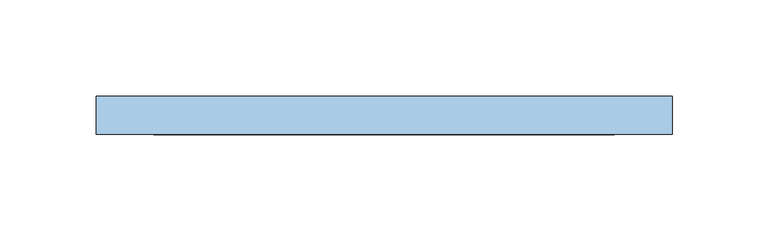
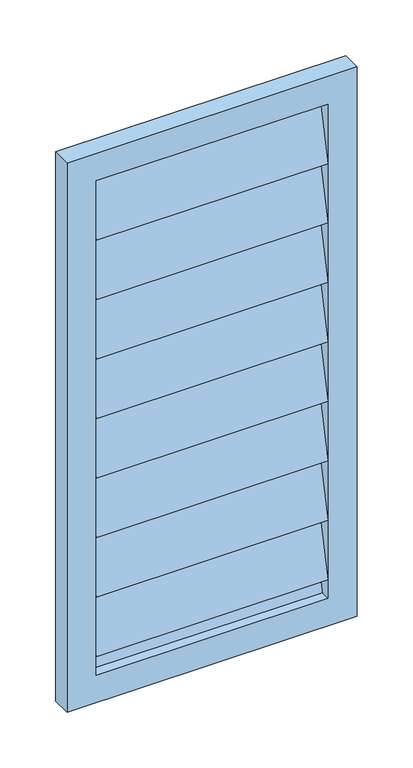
"""IFC4 building model written with IfcOpenShell, lengths in millimetres: window geometry, ARQ-Rejilla ventilación : ARQ-Rejilla ventilación."""

import ifcopenshell
import ifcopenshell.guid

model = None  # the IFC model being written
_history = None  # IfcOwnerHistory: only IFC2X3 demands one
_inside = {}  # id of a spatial element -> (the spatial element, [elements in it])
_under = {}  # id of a project, library or spatial element -> (it, [spatial elements below it])
_declared = {}  # id of a project -> (the project, [libraries it declares])
_typed = {}  # id of a type object -> (the type object, [elements of that type])
_made_of = {}  # id of a material, layer set ... -> (it, [elements and type objects made of it])


def new_model(schema):
    """Start an empty IFC model of exactly this schema.

    Asked for "IFC4X3", IfcOpenShell would pick the latest addendum, in which some entities
    have other attributes; the version numbers below select the first issue.
    IFC2X3 requires an IfcOwnerHistory on every rooted entity: one is made here for all.
    """
    global model, _history
    if schema == "IFC4X3":
        model = ifcopenshell.file(schema_version=(4, 3, 0, 0))
    else:
        model = ifcopenshell.file(schema=schema)
    _inside.clear()
    _under.clear()
    _declared.clear()
    _typed.clear()
    _made_of.clear()
    _history = None
    if model.schema == "IFC2X3":
        org = make("IfcOrganization", Name="unknown")
        user = make(
            "IfcPersonAndOrganization",
            ThePerson=make("IfcPerson", FamilyName="unknown"),
            TheOrganization=org,
        )
        app = make(
            "IfcApplication",
            ApplicationDeveloper=org,
            Version="unknown",
            ApplicationFullName="unknown",
            ApplicationIdentifier="unknown",
        )
        _history = make(
            "IfcOwnerHistory",
            OwningUser=user,
            OwningApplication=app,
            ChangeAction="ADDED",
            CreationDate=0,
        )
    return model


def make(cls, **values):
    """One entity of the class cls with the attributes given. An attribute that is None is left unset."""
    return model.create_entity(
        cls, **{name: value for name, value in values.items() if value is not None}
    )


def rooted(cls, **values):
    """An entity with a GlobalId (a new one), such as an element, a storey or a relation."""
    return make(cls, GlobalId=ifcopenshell.guid.new(), OwnerHistory=_history, **values)


def si_unit(unit_type, name, prefix=None):
    """IfcSIUnit, for example si_unit("LENGTHUNIT", "METRE", prefix="MILLI")."""
    return make("IfcSIUnit", UnitType=unit_type, Prefix=prefix, Name=name)


def assignment(units):
    """IfcUnitAssignment: the units of a project."""
    return None if units is None else make("IfcUnitAssignment", Units=units)


def point(xyz):
    """IfcCartesianPoint."""
    return None if xyz is None else make("IfcCartesianPoint", Coordinates=xyz)


def direction(xyz):
    """IfcDirection."""
    return None if xyz is None else make("IfcDirection", DirectionRatios=xyz)


def frame(location, z_axis=None, x_axis=None):
    """IfcAxis2Placement3D, a coordinate frame: its origin and axes. An axis left out is left unset."""
    return make(
        "IfcAxis2Placement3D",
        Location=point(location),
        Axis=direction(z_axis),
        RefDirection=direction(x_axis),
    )


def origin():
    """The frame at (0, 0, 0) with its axes left unset."""
    return frame((0.0, 0.0, 0.0))


def place(relative_to, where):
    """IfcLocalPlacement: puts the frame where relative to a parent placement (None: the world)."""
    return make(
        "IfcLocalPlacement", PlacementRelTo=relative_to, RelativePlacement=where
    )


def context(
    kind, dimensions, precision=None, world=None, true_north=None, identifier=None
):
    """IfcGeometricRepresentationContext, for example the 3D "Model" context."""
    return make(
        "IfcGeometricRepresentationContext",
        ContextIdentifier=identifier,
        ContextType=kind,
        CoordinateSpaceDimension=dimensions,
        Precision=precision,
        WorldCoordinateSystem=world,
        TrueNorth=true_north,
    )


def project(units=None, contexts=None):
    """IfcProject with its units and contexts."""
    return rooted(
        "IfcProject",
        Name="project",
        RepresentationContexts=contexts,
        UnitsInContext=assignment(units),
    )


def spatial(cls, under=None, at=None, **own):
    """A site, building, storey or space (cls), placed at a placement, below another one or the project."""
    s = rooted(cls, ObjectPlacement=at, **own)
    if under is not None:
        _under.setdefault(under.id(), (under, []))[1].append(s)
    return s


def polyline(points):
    """IfcPolyline through the points."""
    return make("IfcPolyline", Points=[point(p) for p in points])


def outline(outer, holes=None, kind="AREA"):
    """IfcArbitraryClosedProfileDef: a profile drawn as a closed curve; with holes, ...WithVoids."""
    if holes is None:
        return make("IfcArbitraryClosedProfileDef", ProfileType=kind, OuterCurve=outer)
    return make(
        "IfcArbitraryProfileDefWithVoids",
        ProfileType=kind,
        OuterCurve=outer,
        InnerCurves=holes,
    )


def extrude(swept, where, along, depth):
    """IfcExtrudedAreaSolid: the profile swept, set in the frame where, extruded along a direction by depth."""
    return make(
        "IfcExtrudedAreaSolid",
        SweptArea=swept,
        Position=where,
        ExtrudedDirection=direction(along),
        Depth=depth,
    )


def shape(context_of_items, identifier, shape_type, items):
    """IfcShapeRepresentation: the items that make up one representation, for example the "Body"."""
    return make(
        "IfcShapeRepresentation",
        ContextOfItems=context_of_items,
        RepresentationIdentifier=identifier,
        RepresentationType=shape_type,
        Items=items,
    )


def source(mapping_origin, context_of_items, identifier, shape_type, items):
    """IfcRepresentationMap: a shape defined once, which mapped items show again and again."""
    return make(
        "IfcRepresentationMap",
        MappingOrigin=mapping_origin,
        MappedRepresentation=shape(context_of_items, identifier, shape_type, items),
    )


def transform(
    local_origin,
    x_axis=None,
    y_axis=None,
    z_axis=None,
    scale=None,
    scale2=None,
    scale3=None,
    uniform=True,
):
    """IfcCartesianTransformationOperator3D, or its non-uniform kind. x_axis, y_axis, z_axis: its Axis1, 2, 3."""
    if uniform:
        return make(
            "IfcCartesianTransformationOperator3D",
            Axis1=direction(x_axis),
            Axis2=direction(y_axis),
            LocalOrigin=point(local_origin),
            Scale=scale,
            Axis3=direction(z_axis),
        )
    return make(
        "IfcCartesianTransformationOperator3DnonUniform",
        Axis1=direction(x_axis),
        Axis2=direction(y_axis),
        LocalOrigin=point(local_origin),
        Scale=scale,
        Axis3=direction(z_axis),
        Scale2=scale2,
        Scale3=scale3,
    )


def mapped(mapping_source, mapping_target):
    """IfcMappedItem: shows the shape of a source again, moved by a transform."""
    return make(
        "IfcMappedItem", MappingSource=mapping_source, MappingTarget=mapping_target
    )


def made_of(thing, what):
    """Note that an element or type object is made of a material, layer set ...; save() writes the relation."""
    if what is not None:
        _made_of.setdefault(what.id(), (what, []))[1].append(thing)
    return thing


def element(
    cls,
    number,
    at=None,
    inside=None,
    cuts=None,
    type_object=None,
    material=None,
    context=None,
    identifier="Body",
    shape_type=None,
    held_by="IfcProductDefinitionShape",
    body=None,
    shapes=None,
    **own,
):
    """One element of the class cls, such as IfcWall. Its Tag is "e" and its number.

    at: its placement. inside: the storey or other place that contains it. cuts: it is an
    opening in that element (IfcRelVoidsElement). A single representation is given by context,
    identifier, shape_type and body (its items); several are given by shapes. held_by: the class
    of the entity that holds the representations. save() writes the other relations.
    """
    e = rooted(cls, Tag="e%d" % number, ObjectPlacement=at, **own)
    if body is not None:
        shapes = [shape(context, identifier, shape_type, body)]
    if shapes is not None:
        e.Representation = make(held_by, Representations=shapes)
    if inside is not None:
        _inside.setdefault(inside.id(), (inside, []))[1].append(e)
    if cuts is not None:
        rooted(
            "IfcRelVoidsElement", RelatingBuildingElement=cuts, RelatedOpeningElement=e
        )
    if type_object is not None:
        _typed.setdefault(type_object.id(), (type_object, []))[1].append(e)
    return made_of(e, material)


def aggregate(whole, parts):
    """IfcRelAggregates: a whole, such as a stair, and the parts it consists of."""
    return rooted("IfcRelAggregates", RelatingObject=whole, RelatedObjects=parts)


def save(model, path):
    """Write the relations noted so far, then the file.

    IfcRelAggregates (storeys below a building ...), IfcRelContainedInSpatialStructure (elements
    in a storey), IfcRelDefinesByType, IfcRelAssociatesMaterial and IfcRelDeclares: one each for
    every whole, place, type object, material and project.
    """
    for whole, parts in _under.values():
        aggregate(whole, parts)
    for where, things in _inside.values():
        rooted(
            "IfcRelContainedInSpatialStructure",
            RelatedElements=things,
            RelatingStructure=where,
        )
    for kind, things in _typed.values():
        rooted("IfcRelDefinesByType", RelatedObjects=things, RelatingType=kind)
    for what, things in _made_of.values():
        rooted("IfcRelAssociatesMaterial", RelatedObjects=things, RelatingMaterial=what)
    for by, libraries in _declared.values():
        rooted("IfcRelDeclares", RelatingContext=by, RelatedDefinitions=libraries)
    model.write(path)


def window_c40e4f47(model_context):
    return source(origin(), model_context, "Body", "SweptSolid", [
        extrude(outline(polyline([(50.0, 980.0), (35.4626696, 915.0), (30.0, 915.0), (44.5373304, 980.0), (50.0, 980.0)])), frame((-120.0, 0.0, 0.0), z_axis=(1.0, 0.0, 0.0), x_axis=(0.0, 1.0, 0.0)), (0.0, 0.0, 1.0), 240.0),
        extrude(outline(polyline([(50.0, 915.0), (35.4626696, 850.0), (30.0, 850.0), (44.5373304, 915.0), (50.0, 915.0)])), frame((-120.0, 0.0, 0.0), z_axis=(1.0, 0.0, 0.0), x_axis=(0.0, 1.0, 0.0)), (0.0, 0.0, 1.0), 240.0),
        extrude(outline(polyline([(50.0, 850.0), (45.5269753, 830.0), (40.0643056, 830.0), (44.5373304, 850.0), (50.0, 850.0)])), frame((-120.0, 0.0, 0.0), z_axis=(1.0, 0.0, 0.0), x_axis=(0.0, 1.0, 0.0)), (0.0, 0.0, 1.0), 240.0),
        extrude(outline(polyline([(50.0, 1370.0), (35.4626696, 1305.0), (30.0, 1305.0), (44.5373304, 1370.0), (50.0, 1370.0)])), frame((-120.0, 0.0, 0.0), z_axis=(1.0, 0.0, 0.0), x_axis=(0.0, 1.0, 0.0)), (0.0, 0.0, 1.0), 240.0),
        extrude(outline(polyline([(50.0, 1305.0), (35.4626696, 1240.0), (30.0, 1240.0), (44.5373304, 1305.0), (50.0, 1305.0)])), frame((-120.0, 0.0, 0.0), z_axis=(1.0, 0.0, 0.0), x_axis=(0.0, 1.0, 0.0)), (0.0, 0.0, 1.0), 240.0),
        extrude(outline(polyline([(50.0, 1240.0), (35.4626696, 1175.0), (30.0, 1175.0), (44.5373304, 1240.0), (50.0, 1240.0)])), frame((-120.0, 0.0, 0.0), z_axis=(1.0, 0.0, 0.0), x_axis=(0.0, 1.0, 0.0)), (0.0, 0.0, 1.0), 240.0),
        extrude(outline(polyline([(50.0, 1175.0), (35.4626696, 1110.0), (30.0, 1110.0), (44.5373304, 1175.0), (50.0, 1175.0)])), frame((-120.0, 0.0, 0.0), z_axis=(1.0, 0.0, 0.0), x_axis=(0.0, 1.0, 0.0)), (0.0, 0.0, 1.0), 240.0),
        extrude(outline(polyline([(50.0, 1110.0), (35.4626696, 1045.0), (30.0, 1045.0), (44.5373304, 1110.0), (50.0, 1110.0)])), frame((-120.0, 0.0, 0.0), z_axis=(1.0, 0.0, 0.0), x_axis=(0.0, 1.0, 0.0)), (0.0, 0.0, 1.0), 240.0),
        extrude(outline(polyline([(50.0, 1045.0), (35.4626696, 980.0), (30.0, 980.0), (44.5373304, 1045.0), (50.0, 1045.0)])), frame((-120.0, 0.0, 0.0), z_axis=(1.0, 0.0, 0.0), x_axis=(0.0, 1.0, 0.0)), (0.0, 0.0, 1.0), 240.0),
        extrude(outline(polyline([(1400.0, -150.0), (800.0, -150.0), (800.0, 150.0), (1400.0, 150.0), (1400.0, -150.0)]), holes=[polyline([(1370.0, -120.0), (1370.0, 120.0), (830.0, 120.0), (830.0, -120.0), (1370.0, -120.0)])]), frame((0.0, 30.0, 0.0), z_axis=(0.0, 1.0, 0.0), x_axis=(0.0, 0.0, 1.0)), (0.0, 0.0, 1.0), 20.0),
    ])


if __name__ == "__main__":
    model = new_model("IFC4")
    model_context = context("Model", 3, world=origin())
    ifc_project = project(units=[si_unit("LENGTHUNIT", "METRE", prefix="MILLI")], contexts=[model_context])
    site = spatial("IfcSite", under=ifc_project)
    building = spatial("IfcBuilding", under=site)
    placement = place(None, origin())
    window_shape = window_c40e4f47(model_context)
    element("IfcWindow", 1, ObjectType="ARQ-Rejilla ventilación : ARQ-Rejilla ventilación", at=placement, inside=building, context=model_context, shape_type="MappedRepresentation", body=[
        mapped(window_shape, transform((0.0, 0.0, 0.0), x_axis=(1.0, 0.0, 0.0), y_axis=(0.0, 1.0, 0.0), z_axis=(0.0, 0.0, 1.0))),
    ])
    save(model, "model.ifc")
